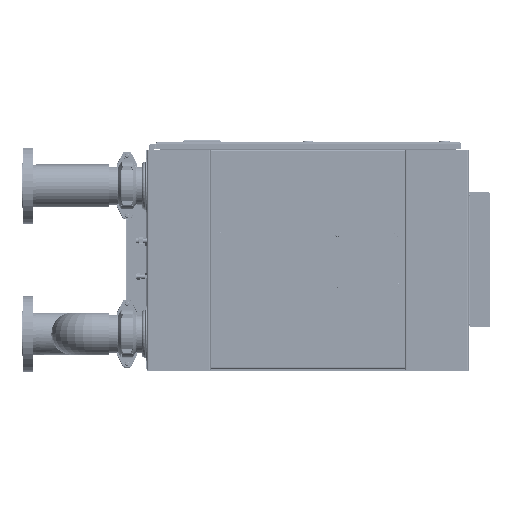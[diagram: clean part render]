
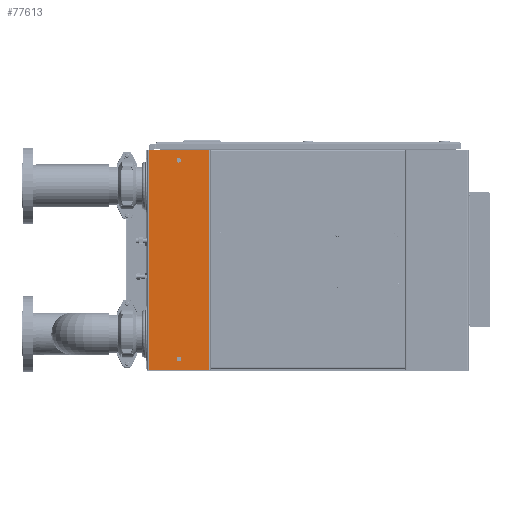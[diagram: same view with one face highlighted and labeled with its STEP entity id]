
A CAD part, front view. The second image highlights one B-rep face of the part: STEP entity #77613.
In plain terms, the highlighted planar face has unit normal (0, -1, 0).
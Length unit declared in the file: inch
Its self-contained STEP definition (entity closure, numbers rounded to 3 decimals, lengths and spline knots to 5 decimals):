
#7044 = EDGE_CURVE ( 'NONE', #89256, #115780, #163913, .T. ) ;
#7517 = EDGE_CURVE ( 'NONE', #115780, #89256, #108143, .T. ) ;
#14151 = LINE ( 'NONE', #81948, #126245 ) ;
#15915 = VERTEX_POINT ( 'NONE', #79717 ) ;
#17640 = VECTOR ( 'NONE', #31208, 39.37008 ) ;
#17952 = ORIENTED_EDGE ( 'NONE', *, *, #7044, .T. ) ;
#18946 = DIRECTION ( 'NONE',  ( 0., 0., 1. ) ) ;
#23925 = VERTEX_POINT ( 'NONE', #142129 ) ;
#24422 = EDGE_CURVE ( 'NONE', #15915, #23925, #111952, .T. ) ;
#27866 = AXIS2_PLACEMENT_3D ( 'NONE', #159660, #72097, #174330 ) ;
#31208 = DIRECTION ( 'NONE',  ( 0., 0., -1. ) ) ;
#33538 = CARTESIAN_POINT ( 'NONE',  ( 3.75, -3.25, 24.47655 ) ) ;
#36161 = CARTESIAN_POINT ( 'NONE',  ( 3.75, -3.25, 0.97655 ) ) ;
#45042 = DIRECTION ( 'NONE',  ( 0., 1., 0. ) ) ;
#46416 = AXIS2_PLACEMENT_3D ( 'NONE', #70997, #173214, #85586 ) ;
#49397 = CIRCLE ( 'NONE', #120249, 0.27345 ) ;
#50376 = CARTESIAN_POINT ( 'NONE',  ( 0.1675, -3.25, 26. ) ) ;
#55649 = PLANE ( 'NONE',  #46416 ) ;
#57796 = ORIENTED_EDGE ( 'NONE', *, *, #183482, .T. ) ;
#59799 = DIRECTION ( 'NONE',  ( 0., 0., 1. ) ) ;
#62721 = FACE_BOUND ( 'NONE', #136231, .T. ) ;
#63173 = DIRECTION ( 'NONE',  ( 0., 1., 0. ) ) ;
#63801 = CARTESIAN_POINT ( 'NONE',  ( 3.75, -3.25, 24.75 ) ) ;
#70997 = CARTESIAN_POINT ( 'NONE',  ( 3.75, -3.25, 13. ) ) ;
#72097 = DIRECTION ( 'NONE',  ( 0., 1., 0. ) ) ;
#72165 = CARTESIAN_POINT ( 'NONE',  ( 0., -3.25, 0. ) ) ;
#73212 = ORIENTED_EDGE ( 'NONE', *, *, #144625, .F. ) ;
#77613 = ADVANCED_FACE ( 'NONE', ( #174718, #62721, #101518 ), #55649, .F. ) ;
#77757 = CARTESIAN_POINT ( 'NONE',  ( 3.75, -3.25, 1.25 ) ) ;
#78367 = DIRECTION ( 'NONE',  ( 0., 0., 1. ) ) ;
#79717 = CARTESIAN_POINT ( 'NONE',  ( 7.3325, -3.25, 0. ) ) ;
#81948 = CARTESIAN_POINT ( 'NONE',  ( 0., -3.25, 26. ) ) ;
#84261 = AXIS2_PLACEMENT_3D ( 'NONE', #77757, #63173, #18946 ) ;
#85586 = DIRECTION ( 'NONE',  ( 0., 0., 1. ) ) ;
#86724 = DIRECTION ( 'NONE',  ( -1., 0., 0. ) ) ;
#89256 = VERTEX_POINT ( 'NONE', #110209 ) ;
#91433 = VERTEX_POINT ( 'NONE', #33538 ) ;
#93938 = VERTEX_POINT ( 'NONE', #124352 ) ;
#95411 = LINE ( 'NONE', #177010, #17640 ) ;
#98535 = CIRCLE ( 'NONE', #27866, 0.27345 ) ;
#99405 = EDGE_CURVE ( 'NONE', #91433, #102152, #98535, .T. ) ;
#101518 = FACE_OUTER_BOUND ( 'NONE', #132305, .T. ) ;
#102152 = VERTEX_POINT ( 'NONE', #155437 ) ;
#106482 = AXIS2_PLACEMENT_3D ( 'NONE', #135808, #45042, #59799 ) ;
#108143 = CIRCLE ( 'NONE', #106482, 0.27345 ) ;
#108935 = EDGE_CURVE ( 'NONE', #140407, #23925, #14151, .T. ) ;
#110209 = CARTESIAN_POINT ( 'NONE',  ( 3.75, -3.25, 1.52345 ) ) ;
#111952 = LINE ( 'NONE', #170598, #146386 ) ;
#115780 = VERTEX_POINT ( 'NONE', #36161 ) ;
#118890 = ORIENTED_EDGE ( 'NONE', *, *, #119910, .T. ) ;
#119910 = EDGE_CURVE ( 'NONE', #140407, #93938, #95411, .T. ) ;
#120249 = AXIS2_PLACEMENT_3D ( 'NONE', #63801, #166002, #78367 ) ;
#124352 = CARTESIAN_POINT ( 'NONE',  ( 0.1675, -3.25, 0. ) ) ;
#126096 = DIRECTION ( 'NONE',  ( 1., 0., 0. ) ) ;
#126245 = VECTOR ( 'NONE', #126096, 39.37008 ) ;
#129628 = VECTOR ( 'NONE', #86724, 39.37008 ) ;
#132305 = EDGE_LOOP ( 'NONE', ( #145650, #186958, #118890, #73212 ) ) ;
#134062 = ORIENTED_EDGE ( 'NONE', *, *, #7517, .T. ) ;
#135808 = CARTESIAN_POINT ( 'NONE',  ( 3.75, -3.25, 1.25 ) ) ;
#136231 = EDGE_LOOP ( 'NONE', ( #17952, #134062 ) ) ;
#140407 = VERTEX_POINT ( 'NONE', #50376 ) ;
#142129 = CARTESIAN_POINT ( 'NONE',  ( 7.3325, -3.25, 26. ) ) ;
#144625 = EDGE_CURVE ( 'NONE', #15915, #93938, #168476, .T. ) ;
#145650 = ORIENTED_EDGE ( 'NONE', *, *, #24422, .T. ) ;
#146386 = VECTOR ( 'NONE', #185296, 39.37008 ) ;
#151620 = ORIENTED_EDGE ( 'NONE', *, *, #99405, .T. ) ;
#155437 = CARTESIAN_POINT ( 'NONE',  ( 3.75, -3.25, 25.02345 ) ) ;
#159660 = CARTESIAN_POINT ( 'NONE',  ( 3.75, -3.25, 24.75 ) ) ;
#163913 = CIRCLE ( 'NONE', #84261, 0.27345 ) ;
#166002 = DIRECTION ( 'NONE',  ( 0., 1., 0. ) ) ;
#168476 = LINE ( 'NONE', #72165, #129628 ) ;
#170598 = CARTESIAN_POINT ( 'NONE',  ( 7.3325, -3.25, 0. ) ) ;
#173214 = DIRECTION ( 'NONE',  ( 0., 1., 0. ) ) ;
#174330 = DIRECTION ( 'NONE',  ( 0., 0., 1. ) ) ;
#174718 = FACE_BOUND ( 'NONE', #181555, .T. ) ;
#177010 = CARTESIAN_POINT ( 'NONE',  ( 0.1675, -3.25, 26. ) ) ;
#181555 = EDGE_LOOP ( 'NONE', ( #57796, #151620 ) ) ;
#183482 = EDGE_CURVE ( 'NONE', #102152, #91433, #49397, .T. ) ;
#185296 = DIRECTION ( 'NONE',  ( 0., 0., 1. ) ) ;
#186958 = ORIENTED_EDGE ( 'NONE', *, *, #108935, .F. ) ;
